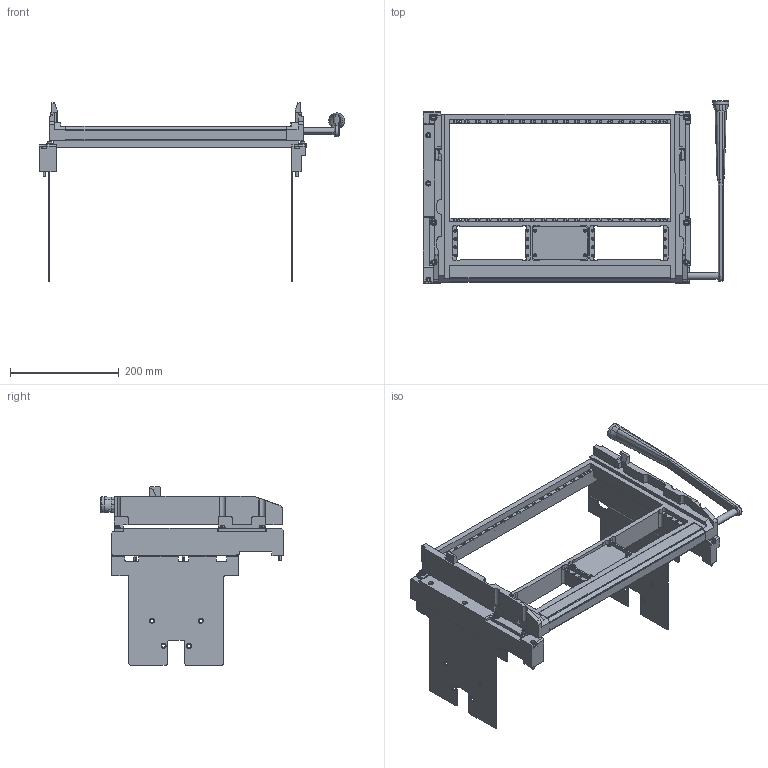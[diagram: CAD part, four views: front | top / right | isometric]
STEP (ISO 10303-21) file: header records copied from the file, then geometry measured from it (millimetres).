
FILE_DESCRIPTION (( 'STEP AP203' ), '1' );
FILE_NAME ('310120155.STEP', '2011-11-16T13:30:50', ( 'VPC Computer Systems' ), ( 'Virginia Panel Corporation' ), 'SwSTEP 2.0', 'SolidWorks 2011', '' );
FILE_SCHEMA (( 'CONFIG_CONTROL_DESIGN' ));
Length unit declared in the file: inch
Products named in the file (1): 310120155
Bounding box: 562.66 x 336.55 x 328.8 mm (x, y, z)
Volume: 2596799.7 mm3; surface area: 643942 mm2
Topology: 1 solids, 35 shells, 1605 faces, 4106 edges, 2565 vertices
Faces by surface type: plane 702, cylinder 629, cone 222, torus 42, bspline 10
Entity records: 48577 total; most frequent: CARTESIAN_POINT 9118, DIRECTION 8527, ORIENTED_EDGE 7932, EDGE_CURVE 3966, AXIS2_PLACEMENT_3D 3028, VERTEX_POINT 2565, VECTOR 2471, LINE 2471
